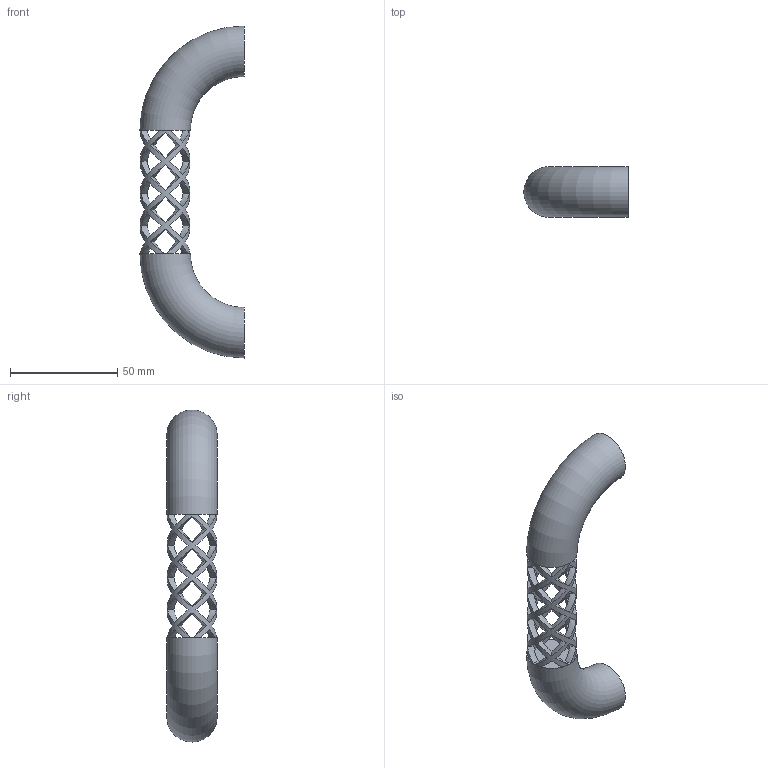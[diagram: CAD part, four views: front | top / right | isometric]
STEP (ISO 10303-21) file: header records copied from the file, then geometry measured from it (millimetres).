
FILE_DESCRIPTION(/* description */ (''),/* implementation_level */ '2;1');
FILE_NAME(/* name */ 'handle v3.step',/* time_stamp */ '2024-03-03T09:14:22+01:00',/* author */ (''),/* organization */ (''),/* preprocessor_version */ 'ST-DEVELOPER v20',/* originating_system */ 'Autodesk Translation Framework v12.20.1.177',/* authorisation */ '');
FILE_SCHEMA (('AUTOMOTIVE_DESIGN { 1 0 10303 214 3 1 1 }'));
Length unit declared in the file: millimetre
Products named in the file (1): handle
Bounding box: 48.5 x 23.5 x 154.5 mm (x, y, z)
Volume: 53798.4 mm3; surface area: 16265.9 mm2
Topology: 1 solids, 1 shells, 142 faces, 446 edges, 292 vertices
Faces by surface type: bspline 128, plane 6, cylinder 4, cone 2, torus 2
Full cylindrical faces by diameter (mm): 2.7 x2, 17 x1, 23 x1
Entity records: 7233 total; most frequent: CARTESIAN_POINT 4249, ORIENTED_EDGE 892, EDGE_CURVE 446, B_SPLINE_CURVE_WITH_KNOTS 392, VERTEX_POINT 292, EDGE_LOOP 198, FACE_OUTER_BOUND 142, ADVANCED_FACE 142
